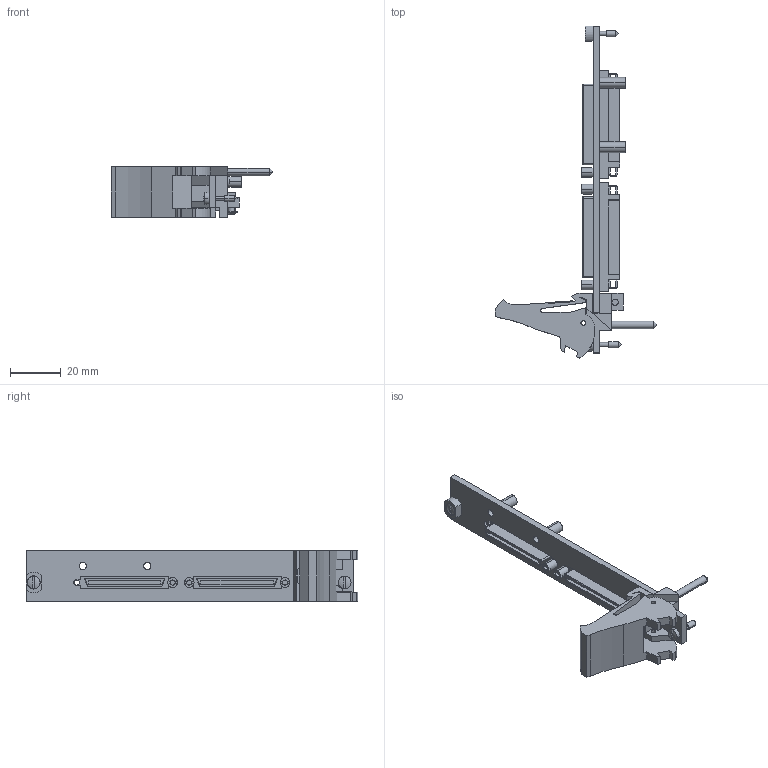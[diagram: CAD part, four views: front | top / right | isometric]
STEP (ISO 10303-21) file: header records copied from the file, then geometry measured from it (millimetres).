
FILE_DESCRIPTION((''),'2;1');
FILE_NAME('CU-PXI-MODULE-68POS-VHDCI','2009-09-23T',('mschrade'),(''),'PRO/ENGINEER BY PARAMETRIC TECHNOLOGY CORPORATION, 2006080','PRO/ENGINEER BY PARAMETRIC TECHNOLOGY CORPORATION, 2006080','');
FILE_SCHEMA(('CONFIG_CONTROL_DESIGN'));
Length unit declared in the file: inch
Products named in the file (1): CU-PXI-MODULE-68POS-VHDCI
Bounding box: 63.53 x 130.62 x 20.02 mm (x, y, z)
Volume: 16877.5 mm3; surface area: 16052.4 mm2
Topology: 1 solids, 1 shells, 496 faces, 1336 edges, 871 vertices
Faces by surface type: plane 315, cylinder 155, cone 12, torus 8, sphere 6
Entity records: 15604 total; most frequent: DIRECTION 2709, CARTESIAN_POINT 2703, ORIENTED_EDGE 2664, EDGE_CURVE 1332, VECTOR 945, LINE 945, AXIS2_PLACEMENT_3D 882, VERTEX_POINT 871
